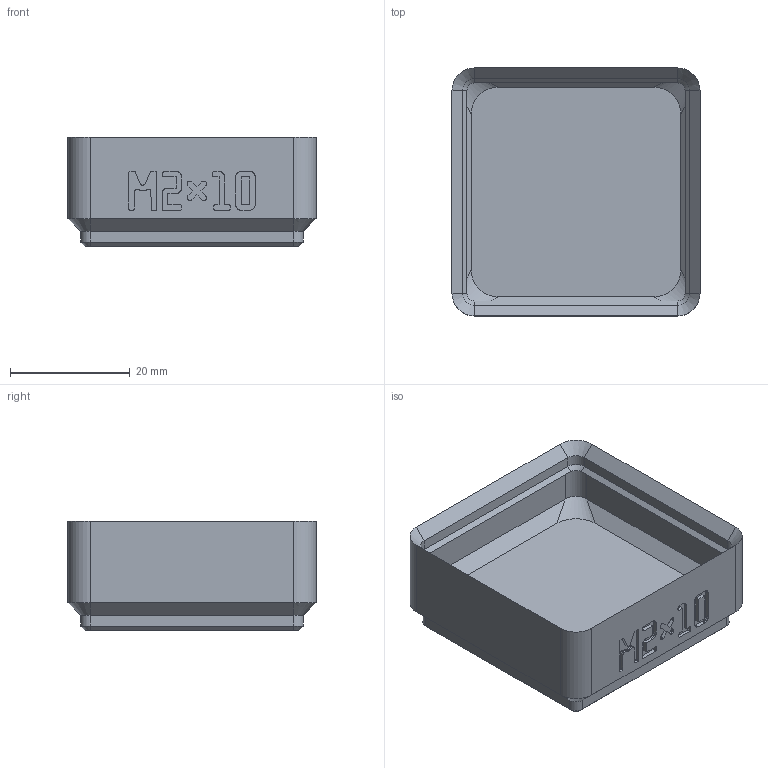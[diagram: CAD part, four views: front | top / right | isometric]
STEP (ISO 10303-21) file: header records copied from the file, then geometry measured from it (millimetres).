
FILE_DESCRIPTION(('Open CASCADE Model'),'2;1');
FILE_NAME('bin_m2x10','2026-11-03T16:47:25',('Author'),('Open CASCADE'), 'Open CASCADE STEP processor 8.0','build123d','Unknown');
FILE_SCHEMA(('AUTOMOTIVE_DESIGN { 1 0 10303 214 1 1 1 1 }'));
Length unit declared in the file: millimetre
Products named in the file (1): bin_m2x10
Bounding box: 41.5 x 41.5 x 18.4 mm (x, y, z)
Volume: 10996.4 mm3; surface area: 8291.9 mm2
Topology: 1 solids, 1 shells, 578 faces, 1627 edges, 1066 vertices
Faces by surface type: plane 530, cylinder 24, cone 16, bspline 8
Full cylindrical faces by diameter (mm): 3.2 x4, 6.5 x4
Entity records: 38346 total; most frequent: CARTESIAN_POINT 7756, DIRECTION 4953, LINE 3663, VECTOR 3663, ORIENTED_EDGE 3254, PCURVE 3254, DEFINITIONAL_REPRESENTATION 3254, EDGE_CURVE 1627
